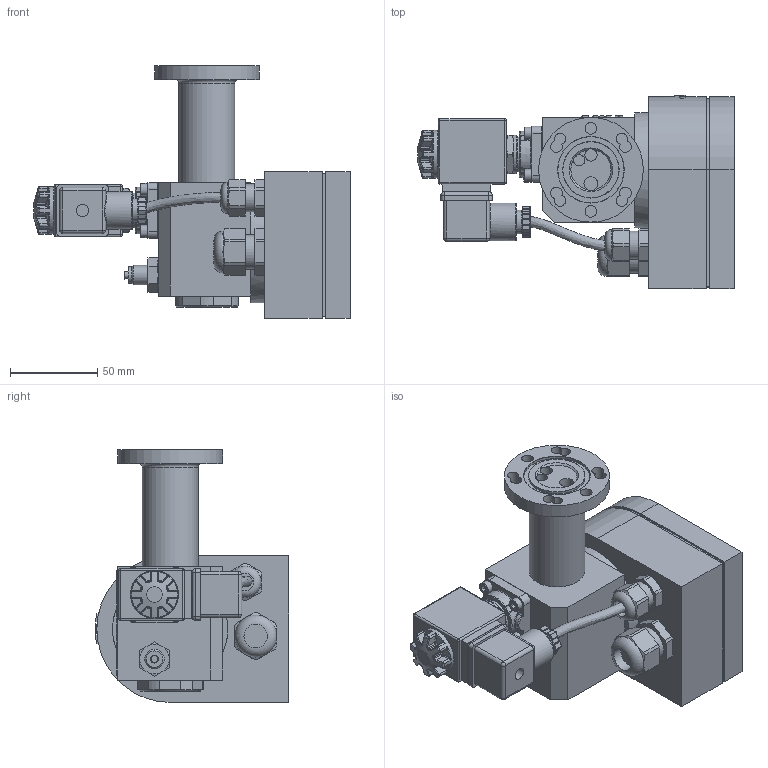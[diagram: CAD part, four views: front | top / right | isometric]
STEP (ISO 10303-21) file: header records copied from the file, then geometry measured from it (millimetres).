
FILE_DESCRIPTION(/* description */ (''),/* implementation_level */ '2;1');
FILE_NAME(/* name */ 'P:\ERM6-0-BC-L\ERM6-0-BC-L.stp',/* time_stamp */ '2019-03-01T10:53:28+01:00',/* author */ ('neufeld'),/* organization */ (''),/* preprocessor_version */ 'ST-DEVELOPER v17',/* originating_system */ 'Autodesk Inventor 2019',/* authorisation */ '');
FILE_SCHEMA (('AUTOMOTIVE_DESIGN { 1 0 10303 214 3 1 1 }'));
Length unit declared in the file: millimetre
Products named in the file (1): ERM6-0-BC-L_AG-Kunde
Bounding box: 181.11 x 111 x 144.8 mm (x, y, z)
Volume: 834711.8 mm3; surface area: 87931.1 mm2
Topology: 1 solids, 1 shells, 1977 faces, 5082 edges, 3259 vertices
Faces by surface type: plane 922, bspline 585, cylinder 245, torus 113, cone 60, sphere 52
Full cylindrical faces by diameter (mm): 4 x1, 6.4 x1, 6.7 x2, 7 x6, 8 x1, 9.1 x1, 9.4 x1, 10 x1, 10.5 x1, 11.112 x1, 13.5 x2, 16 x1, 20 x2, 20.5 x1, 21.5 x1, 22 x1, 24.2 x1, 27.5 x1, 32 x1, 32.35 x1, 37.95 x1, 60 x1, 66 x1
Entity records: 76105 total; most frequent: CARTESIAN_POINT 30891, ORIENTED_EDGE 10150, DIRECTION 7515, EDGE_CURVE 5075, VERTEX_POINT 3242, LINE 2839, VECTOR 2839, AXIS2_PLACEMENT_3D 2338
